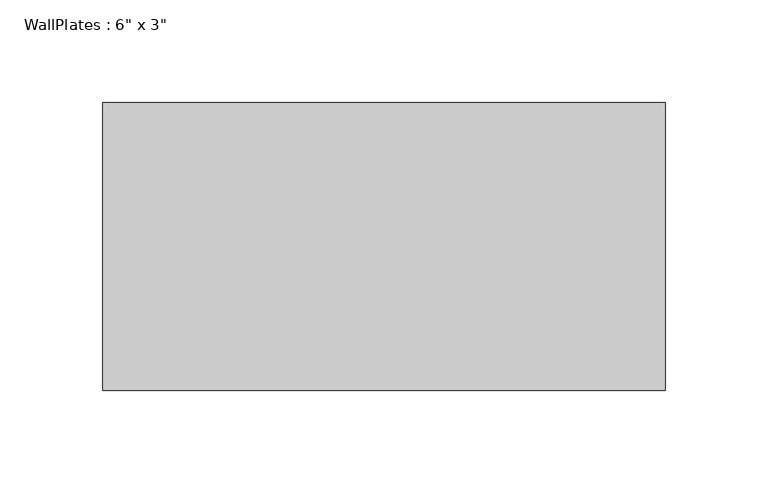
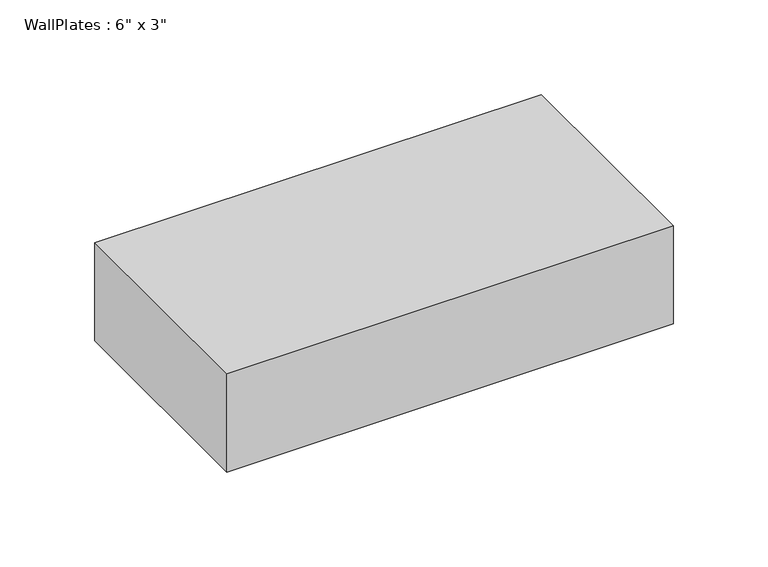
"""IFC4 building model written with IfcOpenShell, lengths in millimetres: beam geometry."""

from ifc_helpers import new_model, si_unit, frame, origin, place, context, project, spatial, polyline, outline, extrude, source, transform, mapped, element, save


def beam_2b10ba76(model_context):
    return source(origin(), model_context, "Body", "SweptSolid", [
        extrude(outline(polyline([(-136.525, -69.85), (-136.525, 69.85), (136.525, 69.85), (136.525, -69.85), (-136.525, -69.85)])), frame((0.0, 0.0, -31.75), z_axis=(0.0, 0.0, 1.0), x_axis=(1.0, 0.0, 0.0)), (0.0, 0.0, 1.0), 63.5),
    ])


if __name__ == "__main__":
    model = new_model("IFC4")
    model_context = context("Model", 3, world=origin())
    ifc_project = project(units=[si_unit("LENGTHUNIT", "METRE", prefix="MILLI")], contexts=[model_context])
    site = spatial("IfcSite", under=ifc_project)
    building = spatial("IfcBuilding", under=site)
    placement = place(None, origin())
    beam_shape = beam_2b10ba76(model_context)
    element("IfcBeam", 1, ObjectType="WallPlates : 6\" x 3\"", at=placement, inside=building, context=model_context, shape_type="MappedRepresentation", body=[
        mapped(beam_shape, transform((0.0, 0.0, 0.0), x_axis=(1.0, 0.0, 0.0), y_axis=(0.0, 1.0, 0.0), z_axis=(0.0, 0.0, 1.0))),
    ])
    save(model, "model.ifc")
